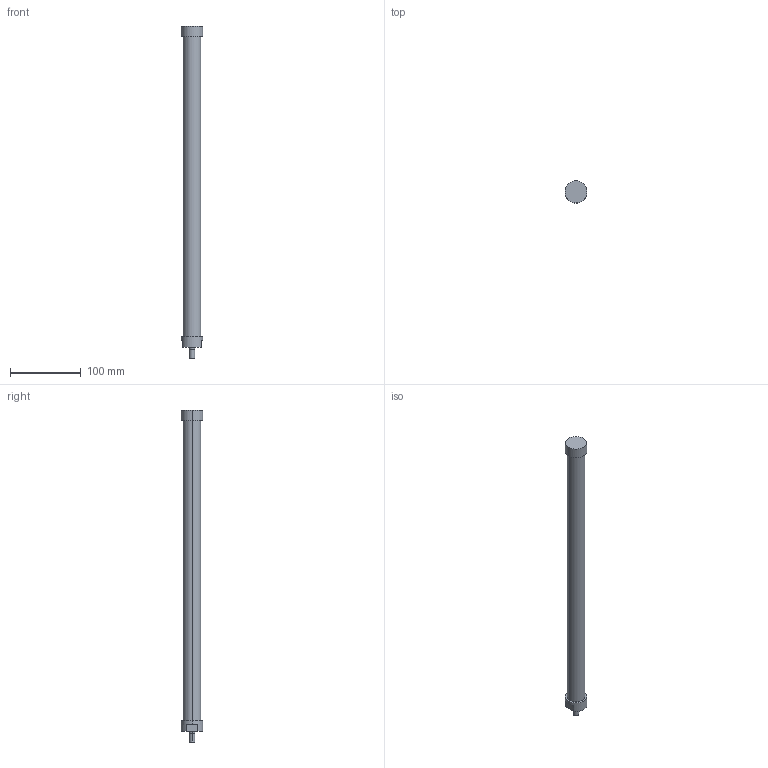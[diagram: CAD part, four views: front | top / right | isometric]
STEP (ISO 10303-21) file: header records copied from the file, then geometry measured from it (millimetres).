
FILE_DESCRIPTION(('STEP AP214'),'1');
FILE_NAME('ETT-R050M464.stp','2015-02-02T15:16:48',(' '),(' '),'Spatial InterOp 3D',' ',' ');
FILE_SCHEMA(('automotive_design'));
Length unit declared in the file: metre
Products named in the file (2): 1; 2
Bounding box: 31 x 31 x 469 mm (x, y, z)
Volume: 230955 mm3; surface area: 38894.1 mm2
Topology: 1 solids, 4 shells, 20 faces, 48 edges, 36 vertices
Faces by surface type: cylinder 10, plane 10
Entity records: 812 total; most frequent: DIRECTION 120, CARTESIAN_POINT 106, ORIENTED_EDGE 84, AXIS2_PLACEMENT_3D 50, EDGE_CURVE 48, VERTEX_POINT 36, CIRCLE 28, EDGE_LOOP 24
